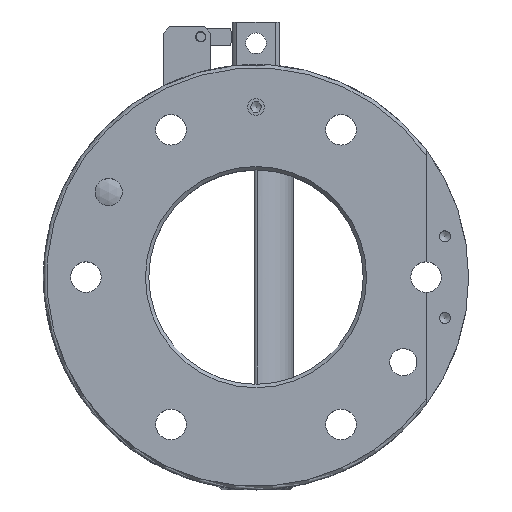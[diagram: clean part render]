
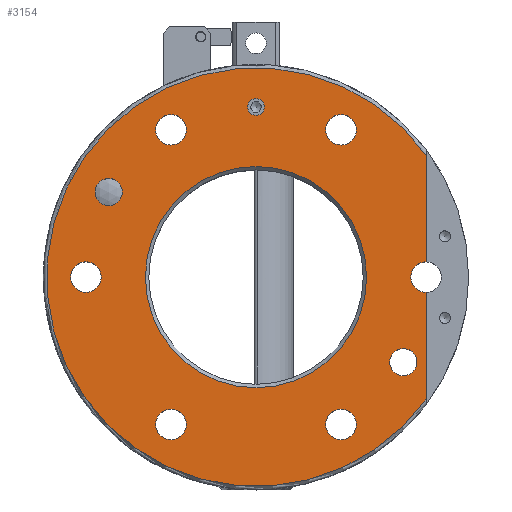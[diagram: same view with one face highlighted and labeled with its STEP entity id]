
A CAD part, top view. The second image highlights one B-rep face of the part: STEP entity #3154.
In plain terms, the highlighted planar face has unit normal (0, 0, 1).
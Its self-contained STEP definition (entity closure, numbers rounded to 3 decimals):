
#65=FACE_BOUND('',#477,.T.);
#66=FACE_BOUND('',#478,.T.);
#67=FACE_BOUND('',#479,.T.);
#68=FACE_BOUND('',#480,.T.);
#69=FACE_BOUND('',#481,.T.);
#70=FACE_BOUND('',#482,.T.);
#71=FACE_BOUND('',#483,.T.);
#72=FACE_BOUND('',#484,.T.);
#73=FACE_BOUND('',#485,.T.);
#108=PLANE('',#3386);
#292=FACE_OUTER_BOUND('',#476,.T.);
#476=EDGE_LOOP('',(#2122,#2123,#2124,#2125));
#477=EDGE_LOOP('',(#2126));
#478=EDGE_LOOP('',(#2127,#2128));
#479=EDGE_LOOP('',(#2129,#2130));
#480=EDGE_LOOP('',(#2131,#2132));
#481=EDGE_LOOP('',(#2133));
#482=EDGE_LOOP('',(#2134));
#483=EDGE_LOOP('',(#2135));
#484=EDGE_LOOP('',(#2136));
#485=EDGE_LOOP('',(#2137));
#685=LINE('',#4893,#889);
#688=LINE('',#4899,#892);
#889=VECTOR('',#3804,10.);
#892=VECTOR('',#3809,10.);
#1117=CIRCLE('',#3384,61.5);
#1118=CIRCLE('',#3387,4.5);
#1119=CIRCLE('',#3388,32.5);
#1120=CIRCLE('',#3389,4.);
#1121=CIRCLE('',#3390,4.);
#1122=CIRCLE('',#3391,4.);
#1123=CIRCLE('',#3392,4.);
#1124=CIRCLE('',#3393,2.459);
#1125=CIRCLE('',#3394,2.459);
#1126=CIRCLE('',#3395,4.5);
#1127=CIRCLE('',#3396,4.5);
#1128=CIRCLE('',#3397,4.5);
#1129=CIRCLE('',#3398,4.5);
#1130=CIRCLE('',#3399,4.5);
#1320=VERTEX_POINT('',#4868);
#1321=VERTEX_POINT('',#4879);
#1322=VERTEX_POINT('',#4892);
#1324=VERTEX_POINT('',#4898);
#1325=VERTEX_POINT('',#4901);
#1326=VERTEX_POINT('',#4903);
#1327=VERTEX_POINT('',#4904);
#1328=VERTEX_POINT('',#4907);
#1329=VERTEX_POINT('',#4908);
#1330=VERTEX_POINT('',#4911);
#1331=VERTEX_POINT('',#4912);
#1332=VERTEX_POINT('',#4915);
#1333=VERTEX_POINT('',#4917);
#1334=VERTEX_POINT('',#4919);
#1335=VERTEX_POINT('',#4921);
#1336=VERTEX_POINT('',#4923);
#1642=EDGE_CURVE('',#1321,#1320,#1117,.T.);
#1643=EDGE_CURVE('',#1322,#1320,#685,.T.);
#1646=EDGE_CURVE('',#1321,#1324,#688,.T.);
#1647=EDGE_CURVE('',#1324,#1322,#1118,.T.);
#1648=EDGE_CURVE('',#1325,#1325,#1119,.T.);
#1649=EDGE_CURVE('',#1326,#1327,#1120,.T.);
#1650=EDGE_CURVE('',#1327,#1326,#1121,.T.);
#1651=EDGE_CURVE('',#1328,#1329,#1122,.T.);
#1652=EDGE_CURVE('',#1329,#1328,#1123,.T.);
#1653=EDGE_CURVE('',#1330,#1331,#1124,.T.);
#1654=EDGE_CURVE('',#1331,#1330,#1125,.T.);
#1655=EDGE_CURVE('',#1332,#1332,#1126,.T.);
#1656=EDGE_CURVE('',#1333,#1333,#1127,.T.);
#1657=EDGE_CURVE('',#1334,#1334,#1128,.T.);
#1658=EDGE_CURVE('',#1335,#1335,#1129,.T.);
#1659=EDGE_CURVE('',#1336,#1336,#1130,.T.);
#2122=ORIENTED_EDGE('',*,*,#1642,.F.);
#2123=ORIENTED_EDGE('',*,*,#1646,.T.);
#2124=ORIENTED_EDGE('',*,*,#1647,.T.);
#2125=ORIENTED_EDGE('',*,*,#1643,.T.);
#2126=ORIENTED_EDGE('',*,*,#1648,.F.);
#2127=ORIENTED_EDGE('',*,*,#1649,.T.);
#2128=ORIENTED_EDGE('',*,*,#1650,.T.);
#2129=ORIENTED_EDGE('',*,*,#1651,.T.);
#2130=ORIENTED_EDGE('',*,*,#1652,.T.);
#2131=ORIENTED_EDGE('',*,*,#1653,.T.);
#2132=ORIENTED_EDGE('',*,*,#1654,.T.);
#2133=ORIENTED_EDGE('',*,*,#1655,.T.);
#2134=ORIENTED_EDGE('',*,*,#1656,.T.);
#2135=ORIENTED_EDGE('',*,*,#1657,.T.);
#2136=ORIENTED_EDGE('',*,*,#1658,.T.);
#2137=ORIENTED_EDGE('',*,*,#1659,.T.);
#3154=ADVANCED_FACE('',(#292,#65,#66,#67,#68,#69,#70,#71,#72,#73),#108,
 .F.);
#3384=AXIS2_PLACEMENT_3D('',#4890,#3800,#3801);
#3386=AXIS2_PLACEMENT_3D('',#4897,#3807,#3808);
#3387=AXIS2_PLACEMENT_3D('',#4900,#3810,#3811);
#3388=AXIS2_PLACEMENT_3D('',#4902,#3812,#3813);
#3389=AXIS2_PLACEMENT_3D('',#4905,#3814,#3815);
#3390=AXIS2_PLACEMENT_3D('',#4906,#3816,#3817);
#3391=AXIS2_PLACEMENT_3D('',#4909,#3818,#3819);
#3392=AXIS2_PLACEMENT_3D('',#4910,#3820,#3821);
#3393=AXIS2_PLACEMENT_3D('',#4913,#3822,#3823);
#3394=AXIS2_PLACEMENT_3D('',#4914,#3824,#3825);
#3395=AXIS2_PLACEMENT_3D('',#4916,#3826,#3827);
#3396=AXIS2_PLACEMENT_3D('',#4918,#3828,#3829);
#3397=AXIS2_PLACEMENT_3D('',#4920,#3830,#3831);
#3398=AXIS2_PLACEMENT_3D('',#4922,#3832,#3833);
#3399=AXIS2_PLACEMENT_3D('',#4924,#3834,#3835);
#3800=DIRECTION('center_axis',(0.,0.,-1.));
#3801=DIRECTION('ref_axis',(-1.,0.,0.));
#3804=DIRECTION('',(0.,1.,0.));
#3807=DIRECTION('center_axis',(0.,0.,-1.));
#3808=DIRECTION('ref_axis',(-1.,0.,0.));
#3809=DIRECTION('',(0.,1.,0.));
#3810=DIRECTION('center_axis',(0.,0.,-1.));
#3811=DIRECTION('ref_axis',(-1.,0.,0.));
#3812=DIRECTION('center_axis',(0.,0.,1.));
#3813=DIRECTION('ref_axis',(-1.,0.,0.));
#3814=DIRECTION('center_axis',(0.,0.,-1.));
#3815=DIRECTION('ref_axis',(1.,0.,0.));
#3816=DIRECTION('center_axis',(0.,0.,-1.));
#3817=DIRECTION('ref_axis',(1.,0.,0.));
#3818=DIRECTION('center_axis',(0.,0.,-1.));
#3819=DIRECTION('ref_axis',(1.,0.,0.));
#3820=DIRECTION('center_axis',(0.,0.,-1.));
#3821=DIRECTION('ref_axis',(1.,0.,0.));
#3822=DIRECTION('center_axis',(0.,0.,-1.));
#3823=DIRECTION('ref_axis',(1.,0.,0.));
#3824=DIRECTION('center_axis',(0.,0.,-1.));
#3825=DIRECTION('ref_axis',(1.,0.,0.));
#3826=DIRECTION('center_axis',(0.,0.,-1.));
#3827=DIRECTION('ref_axis',(-1.,0.,0.));
#3828=DIRECTION('center_axis',(0.,0.,-1.));
#3829=DIRECTION('ref_axis',(-1.,0.,0.));
#3830=DIRECTION('center_axis',(0.,0.,-1.));
#3831=DIRECTION('ref_axis',(-1.,0.,0.));
#3832=DIRECTION('center_axis',(0.,0.,-1.));
#3833=DIRECTION('ref_axis',(-1.,0.,0.));
#3834=DIRECTION('center_axis',(0.,0.,-1.));
#3835=DIRECTION('ref_axis',(-1.,0.,0.));
#4868=CARTESIAN_POINT('',(50.,35.809,0.));
#4879=CARTESIAN_POINT('',(50.,-35.809,0.));
#4890=CARTESIAN_POINT('Origin',(0.,0.,0.));
#4892=CARTESIAN_POINT('',(50.,4.5,0.));
#4893=CARTESIAN_POINT('',(50.,18.75,0.));
#4897=CARTESIAN_POINT('Origin',(0.,0.,0.));
#4898=CARTESIAN_POINT('',(50.,-4.5,0.));
#4899=CARTESIAN_POINT('',(50.,18.75,0.));
#4900=CARTESIAN_POINT('Origin',(50.,0.,0.));
#4901=CARTESIAN_POINT('',(32.5,0.,0.));
#4902=CARTESIAN_POINT('Origin',(0.,0.,0.));
#4903=CARTESIAN_POINT('',(47.301,-25.,0.));
#4904=CARTESIAN_POINT('',(39.301,-25.,0.));
#4905=CARTESIAN_POINT('Origin',(43.301,-25.,0.));
#4906=CARTESIAN_POINT('Origin',(43.301,-25.,0.));
#4907=CARTESIAN_POINT('',(-39.301,25.,0.));
#4908=CARTESIAN_POINT('',(-47.301,25.,0.));
#4909=CARTESIAN_POINT('Origin',(-43.301,25.,0.));
#4910=CARTESIAN_POINT('Origin',(-43.301,25.,0.));
#4911=CARTESIAN_POINT('',(2.459,50.,0.));
#4912=CARTESIAN_POINT('',(-2.459,50.,0.));
#4913=CARTESIAN_POINT('Origin',(0.,50.,0.));
#4914=CARTESIAN_POINT('Origin',(0.,50.,0.));
#4915=CARTESIAN_POINT('',(-45.5,0.,0.));
#4916=CARTESIAN_POINT('Origin',(-50.,0.,0.));
#4917=CARTESIAN_POINT('',(-20.5,43.301,0.));
#4918=CARTESIAN_POINT('Origin',(-25.,43.301,0.));
#4919=CARTESIAN_POINT('',(29.5,43.301,0.));
#4920=CARTESIAN_POINT('Origin',(25.,43.301,0.));
#4921=CARTESIAN_POINT('',(29.5,-43.301,0.));
#4922=CARTESIAN_POINT('Origin',(25.,-43.301,0.));
#4923=CARTESIAN_POINT('',(-20.5,-43.301,0.));
#4924=CARTESIAN_POINT('Origin',(-25.,-43.301,0.));
